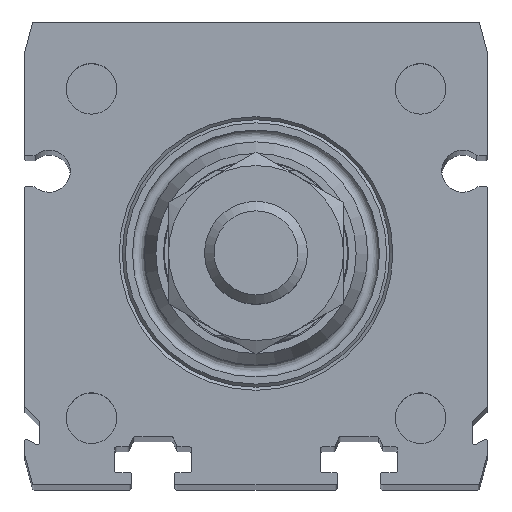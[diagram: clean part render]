
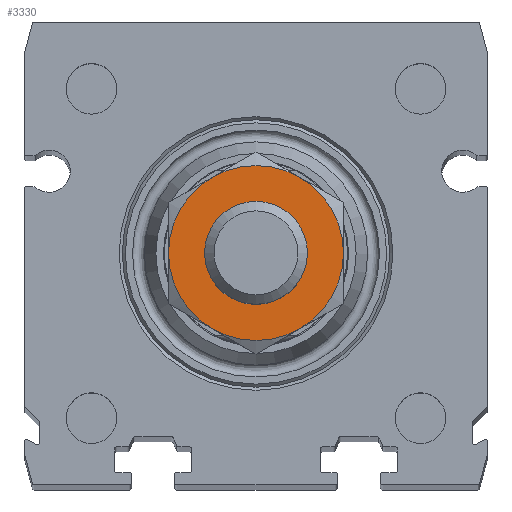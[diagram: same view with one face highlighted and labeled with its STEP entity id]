
A CAD part, top view. The second image highlights one B-rep face of the part: STEP entity #3330.
In plain terms, the highlighted planar face has unit normal (0, 0, 1) as drawn and (1, 0, 0) by its records, which use the part's own axes.
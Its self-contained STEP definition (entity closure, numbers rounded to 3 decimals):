
#618=PLANE('',#3594);
#714=CIRCLE('',#3579,8.5);
#715=CIRCLE('',#3581,8.5);
#716=CIRCLE('',#3583,8.5);
#717=CIRCLE('',#3585,8.5);
#718=CIRCLE('',#3587,8.5);
#721=CIRCLE('',#3593,8.5);
#722=CIRCLE('',#3595,5.);
#969=ORIENTED_EDGE('',*,*,#1933,.F.);
#970=ORIENTED_EDGE('',*,*,#1913,.T.);
#971=ORIENTED_EDGE('',*,*,#1914,.T.);
#972=ORIENTED_EDGE('',*,*,#1917,.T.);
#973=ORIENTED_EDGE('',*,*,#1923,.T.);
#974=ORIENTED_EDGE('',*,*,#1932,.T.);
#975=ORIENTED_EDGE('',*,*,#1922,.T.);
#1913=EDGE_CURVE('',#2392,#2394,#714,.T.);
#1914=EDGE_CURVE('',#2394,#2395,#715,.T.);
#1917=EDGE_CURVE('',#2395,#2397,#716,.T.);
#1922=EDGE_CURVE('',#2399,#2392,#717,.T.);
#1923=EDGE_CURVE('',#2397,#2401,#718,.T.);
#1932=EDGE_CURVE('',#2401,#2399,#721,.T.);
#1933=EDGE_CURVE('',#2406,#2406,#722,.T.);
#2392=VERTEX_POINT('',#5175);
#2394=VERTEX_POINT('',#5181);
#2395=VERTEX_POINT('',#5185);
#2397=VERTEX_POINT('',#5197);
#2399=VERTEX_POINT('',#5212);
#2401=VERTEX_POINT('',#5221);
#2406=VERTEX_POINT('',#5258);
#2760=EDGE_LOOP('',(#969));
#2761=EDGE_LOOP('',(#970,#971,#972,#973,#974,#975));
#3034=FACE_BOUND('',#2760,.T.);
#3035=FACE_BOUND('',#2761,.T.);
#3330=ADVANCED_FACE('',(#3034,#3035),#618,.F.);
#3579=AXIS2_PLACEMENT_3D('',#5182,#4024,#4025);
#3581=AXIS2_PLACEMENT_3D('',#5184,#4028,#4029);
#3583=AXIS2_PLACEMENT_3D('',#5196,#4032,#4033);
#3585=AXIS2_PLACEMENT_3D('',#5218,#4036,#4037);
#3587=AXIS2_PLACEMENT_3D('',#5220,#4040,#4041);
#3593=AXIS2_PLACEMENT_3D('',#5255,#4052,#4053);
#3594=AXIS2_PLACEMENT_3D('',#5256,#4054,#4055);
#3595=AXIS2_PLACEMENT_3D('',#5257,#4056,#4057);
#4024=DIRECTION('',(1.,0.,0.));
#4025=DIRECTION('',(0.,0.,-1.));
#4028=DIRECTION('',(1.,0.,0.));
#4029=DIRECTION('',(0.,0.,-1.));
#4032=DIRECTION('',(1.,0.,0.));
#4033=DIRECTION('',(0.,0.,-1.));
#4036=DIRECTION('',(1.,0.,0.));
#4037=DIRECTION('',(0.,0.,-1.));
#4040=DIRECTION('',(1.,0.,0.));
#4041=DIRECTION('',(0.,0.,-1.));
#4052=DIRECTION('',(1.,0.,0.));
#4053=DIRECTION('',(0.,0.,-1.));
#4054=DIRECTION('',(-1.,0.,0.));
#4055=DIRECTION('',(0.,0.,1.));
#4056=DIRECTION('',(1.,0.,0.));
#4057=DIRECTION('',(0.,0.,-1.));
#5175=CARTESIAN_POINT('',(2.5,0.,-8.5));
#5181=CARTESIAN_POINT('',(2.5,7.361,-4.25));
#5182=CARTESIAN_POINT('',(2.5,0.,0.));
#5184=CARTESIAN_POINT('',(2.5,0.,0.));
#5185=CARTESIAN_POINT('',(2.5,7.361,4.25));
#5196=CARTESIAN_POINT('',(2.5,0.,0.));
#5197=CARTESIAN_POINT('',(2.5,0.,8.5));
#5212=CARTESIAN_POINT('',(2.5,-7.361,-4.25));
#5218=CARTESIAN_POINT('',(2.5,0.,0.));
#5220=CARTESIAN_POINT('',(2.5,0.,0.));
#5221=CARTESIAN_POINT('',(2.5,-7.361,4.25));
#5255=CARTESIAN_POINT('',(2.5,0.,0.));
#5256=CARTESIAN_POINT('',(2.5,8.5,0.));
#5257=CARTESIAN_POINT('',(2.5,0.,0.));
#5258=CARTESIAN_POINT('',(2.5,0.,-5.));
